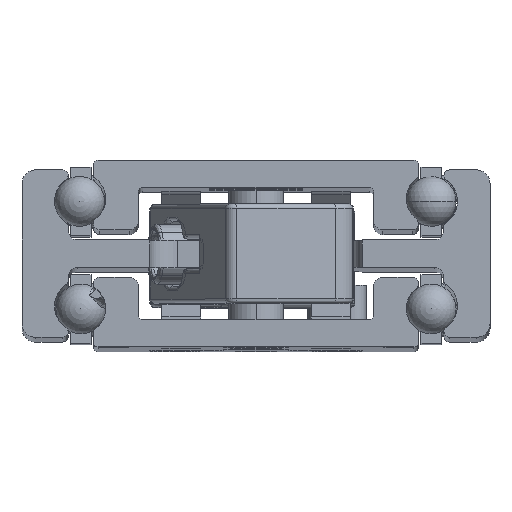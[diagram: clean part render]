
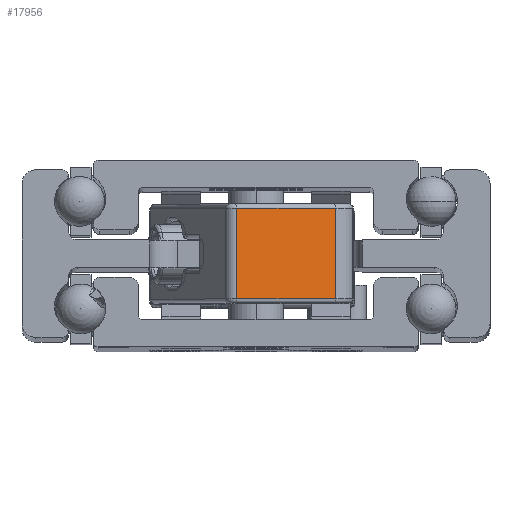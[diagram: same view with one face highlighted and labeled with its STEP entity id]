
A CAD part, top view. The second image highlights one B-rep face of the part: STEP entity #17956.
In plain terms, the highlighted planar face has unit normal (0.225, 0, 0.974) as drawn and (-1, 0, 0) by its records, which use the part's own axes.
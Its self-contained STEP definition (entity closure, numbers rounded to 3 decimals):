
#1832 = DIRECTION ( 'NONE',  ( 1., 0., 0. ) ) ;
#2171 = CARTESIAN_POINT ( 'NONE',  ( -37., 8., 5.4 ) ) ;
#3342 = ORIENTED_EDGE ( 'NONE', *, *, #22011, .T. ) ;
#3991 = AXIS2_PLACEMENT_3D ( 'NONE', #18491, #1832, #22516 ) ;
#7701 = CARTESIAN_POINT ( 'NONE',  ( -37., -3., 4.9 ) ) ;
#7928 = EDGE_CURVE ( 'NONE', #19788, #19617, #16208, .T. ) ;
#9684 = CARTESIAN_POINT ( 'NONE',  ( -37., -3., -4.9 ) ) ;
#9892 = EDGE_CURVE ( 'NONE', #21457, #19788, #14112, .T. ) ;
#10332 = CARTESIAN_POINT ( 'NONE',  ( -37., -3., 5.4 ) ) ;
#10349 = DIRECTION ( 'NONE',  ( 0., 0., -1. ) ) ;
#11518 = LINE ( 'NONE', #23752, #19840 ) ;
#12318 = ORIENTED_EDGE ( 'NONE', *, *, #20083, .T. ) ;
#14112 = LINE ( 'NONE', #10332, #25128 ) ;
#14324 = PLANE ( 'NONE',  #3991 ) ;
#14430 = CARTESIAN_POINT ( 'NONE',  ( -37., 8., -4.9 ) ) ;
#14491 = ORIENTED_EDGE ( 'NONE', *, *, #9892, .T. ) ;
#16208 = LINE ( 'NONE', #24404, #22149 ) ;
#16876 = EDGE_LOOP ( 'NONE', ( #14491, #18488, #12318, #3342 ) ) ;
#17956 = ADVANCED_FACE ( 'NONE', ( #20503 ), #14324, .F. ) ;
#18433 = VERTEX_POINT ( 'NONE', #14430 ) ;
#18488 = ORIENTED_EDGE ( 'NONE', *, *, #7928, .T. ) ;
#18491 = CARTESIAN_POINT ( 'NONE',  ( -37., -4., 5.4 ) ) ;
#19329 = DIRECTION ( 'NONE',  ( 0., -1., 0. ) ) ;
#19617 = VERTEX_POINT ( 'NONE', #20608 ) ;
#19788 = VERTEX_POINT ( 'NONE', #7701 ) ;
#19840 = VECTOR ( 'NONE', #19329, 1000. ) ;
#19892 = VECTOR ( 'NONE', #10349, 1000. ) ;
#20083 = EDGE_CURVE ( 'NONE', #19617, #18433, #20579, .T. ) ;
#20363 = DIRECTION ( 'NONE',  ( 0., 1., 0. ) ) ;
#20503 = FACE_OUTER_BOUND ( 'NONE', #16876, .T. ) ;
#20579 = LINE ( 'NONE', #2171, #19892 ) ;
#20608 = CARTESIAN_POINT ( 'NONE',  ( -37., 8., 4.9 ) ) ;
#21457 = VERTEX_POINT ( 'NONE', #9684 ) ;
#22011 = EDGE_CURVE ( 'NONE', #18433, #21457, #11518, .T. ) ;
#22149 = VECTOR ( 'NONE', #20363, 1000. ) ;
#22516 = DIRECTION ( 'NONE',  ( 0., 0., -1. ) ) ;
#23752 = CARTESIAN_POINT ( 'NONE',  ( -37., -4., -4.9 ) ) ;
#24329 = DIRECTION ( 'NONE',  ( 0., 0., 1. ) ) ;
#24404 = CARTESIAN_POINT ( 'NONE',  ( -37., 8., 4.9 ) ) ;
#25128 = VECTOR ( 'NONE', #24329, 1000. ) ;
